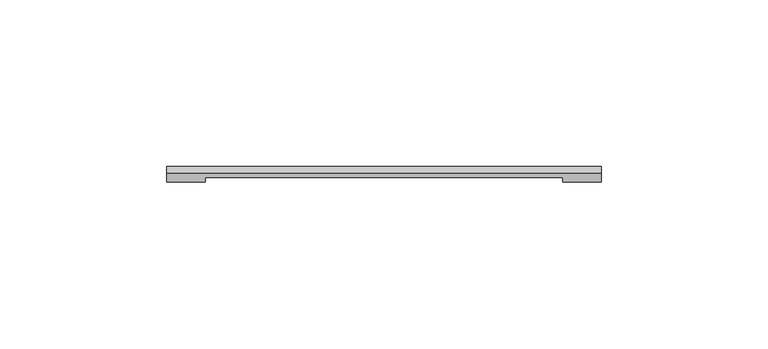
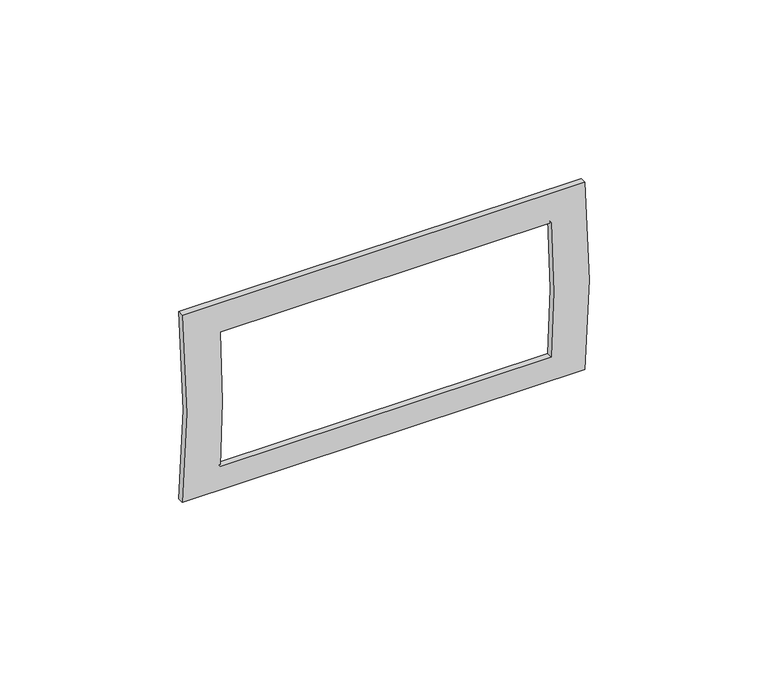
"""IFC4 building model written with IfcOpenShell, lengths in millimetres: proxy geometry, КНС_РамкаУниверсальная_ILF_DKC : 4 модуля."""

from ifc_helpers import new_model, si_unit, frame, origin, place, context, project, spatial, polyline, circle_curve, source, transform, mapped, element, save
from ifc_brep_helpers import plane_surface, cylinder_surface, revolved_surface, advanced_brep


def electrical_fixtures_8b170cca(model_context):
    return source(origin(), model_context, "Body", "AdvancedBrep", [
        advanced_brep(
        [(53.5, -3.2414184, 22.9768143), (53.5, -1.2414184, 22.9768143), (53.5, -1.2414184, -22.9768143), (53.5, -3.2414184, -22.9768143), (-53.5, -3.2414184, -22.9768143), (-53.5, -1.2414184, -22.9768143), (-53.5, -1.2414184, 22.9768143), (-53.5, -3.2414184, 22.9768143), (65.0, -2.0, 31.9768143), (65.0, -2.0, -31.9768143), (65.0, 0.0, -31.9768143), (65.0, 0.0, 31.9768143), (-65.0, -2.0, 31.9768143), (-65.0, 0.0, 31.9768143), (-65.0, 0.0, -31.9768143), (-65.0, -2.0, -31.9768143)],
        [
            (0, 1),
            (1, 2, circle_curve(frame((53.5, 198.5799224, 0.0), z_axis=(1.0, 0.0, 0.0), x_axis=(0.0, 1.0, 0.0)), 201.1380178)),
            (2, 3),
            (3, 0, circle_curve(frame((53.5, 196.5799224, 0.0), z_axis=(-1.0, 0.0, 0.0), x_axis=(0.0, 1.0, 0.0)), 201.1380178)),
            (4, 5),
            (5, 6, circle_curve(frame((-53.5, 198.5799224, 0.0), z_axis=(-1.0, 0.0, 0.0), x_axis=(0.0, 1.0, 0.0)), 201.1380178)),
            (6, 7),
            (7, 4, circle_curve(frame((-53.5, 196.5799224, 0.0), z_axis=(1.0, 0.0, 0.0), x_axis=(0.0, 1.0, 0.0)), 201.1380178)),
            (0, 7),
            (6, 1),
            (2, 5),
            (4, 3),
            (8, 9, circle_curve(frame((65.0, 196.5799224, 0.0), z_axis=(1.0, 0.0, 0.0), x_axis=(0.0, 1.0, 0.0)), 201.1380178)),
            (9, 10),
            (10, 11, circle_curve(frame((65.0, 198.5799224, 0.0), z_axis=(-1.0, 0.0, 0.0), x_axis=(0.0, 1.0, 0.0)), 201.1380178)),
            (11, 8),
            (12, 13),
            (13, 14, circle_curve(frame((-65.0, 198.5799224, 0.0), z_axis=(1.0, 0.0, 0.0), x_axis=(0.0, 1.0, 0.0)), 201.1380178)),
            (14, 15),
            (15, 12, circle_curve(frame((-65.0, 196.5799224, 0.0), z_axis=(-1.0, 0.0, 0.0), x_axis=(0.0, 1.0, 0.0)), 201.1380178)),
            (8, 12),
            (15, 9),
            (14, 10),
            (13, 11),
        ],
        [
            plane_surface(frame((53.5, 397.7179402, 0.0), z_axis=(-1.0, 0.0, 0.0), x_axis=(0.0, 0.0, 1.0))),
            plane_surface(frame((-53.5, 397.7179402, 0.0), z_axis=(1.0, 0.0, 0.0), x_axis=(0.0, 0.0, -1.0))),
            plane_surface(frame((53.5, -1.2414184, 22.9768143), z_axis=(0.0, 0.0, -1.0), x_axis=(-1.0, 0.0, 0.0))),
            plane_surface(frame((53.5, -3.2414184, -22.9768143), z_axis=(0.0, 0.0, 1.0), x_axis=(-1.0, 0.0, 0.0))),
            plane_surface(frame((65.0, 397.7179402, 0.0), z_axis=(1.0, 0.0, 0.0), x_axis=(0.0, 0.0, 1.0))),
            plane_surface(frame((-65.0, 397.7179402, 0.0), z_axis=(-1.0, 0.0, 0.0), x_axis=(0.0, 0.0, -1.0))),
            cylinder_surface(frame((-65.0, 196.5799224, 0.0), z_axis=(1.0, 0.0, 0.0), x_axis=(0.0, 1.0, 0.0)), 201.1380178),
            plane_surface(frame((65.0, -2.0, -31.9768143), z_axis=(0.0, 0.0, -1.0), x_axis=(-1.0, 0.0, 0.0))),
            revolved_surface(polyline([(-65.0, 399.7179402, 0.0), (65.0, 399.7179402, 0.0)]), (-65.0, 198.5799224, 0.0), (-1.0, 0.0, 0.0)),
            plane_surface(frame((65.0, 0.0, 31.9768143), z_axis=(0.0, 0.0, 1.0), x_axis=(-1.0, 0.0, 0.0))),
        ],
        [
            (0, [[1, 2, 3, 4]]),
            (1, [[5, 6, 7, 8]]),
            (2, [[-1, 9, -7, 10]]),
            (3, [[-3, 11, -5, 12]]),
            (4, [[13, 14, 15, 16]]),
            (5, [[17, 18, 19, 20]]),
            (6, [[-13, 21, -20, 22], [-4, -12, -8, -9]]),
            (7, [[-14, -22, -19, 23]]),
            (8, [[-15, -23, -18, 24], [-2, -10, -6, -11]]),
            (9, [[-16, -24, -17, -21]]),
        ],
    ),
    ])


if __name__ == "__main__":
    model = new_model("IFC4")
    model_context = context("Model", 3, world=origin())
    ifc_project = project(units=[si_unit("LENGTHUNIT", "METRE", prefix="MILLI")], contexts=[model_context])
    site = spatial("IfcSite", under=ifc_project)
    building = spatial("IfcBuilding", under=site)
    placement = place(None, origin())
    electrical_fixtures_shape = electrical_fixtures_8b170cca(model_context)
    element("IfcBuildingElementProxy", 1, Name="КНС_РамкаУниверсальная_ILF_DKC : 4 модуля", ObjectType="КНС_РамкаУниверсальная_ILF_DKC : 4 модуля", at=placement, inside=building, context=model_context, shape_type="MappedRepresentation", body=[
        mapped(electrical_fixtures_shape, transform((0.0, 0.0, 0.0), x_axis=(1.0, 0.0, 0.0), y_axis=(0.0, 1.0, 0.0), z_axis=(0.0, 0.0, 1.0))),
    ])
    save(model, "model.ifc")
